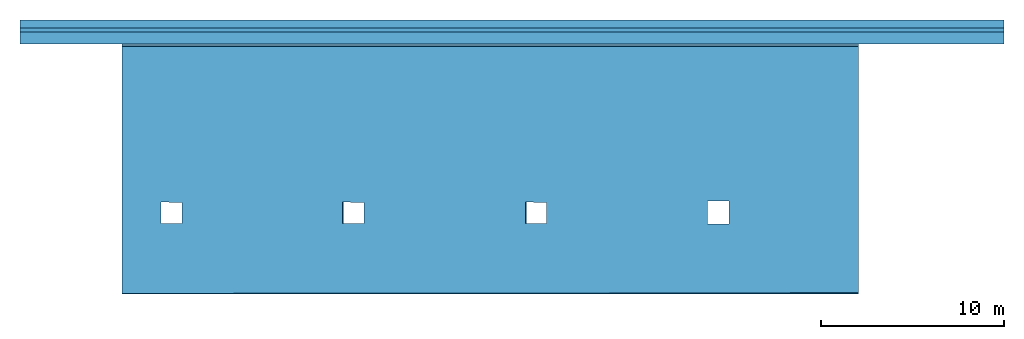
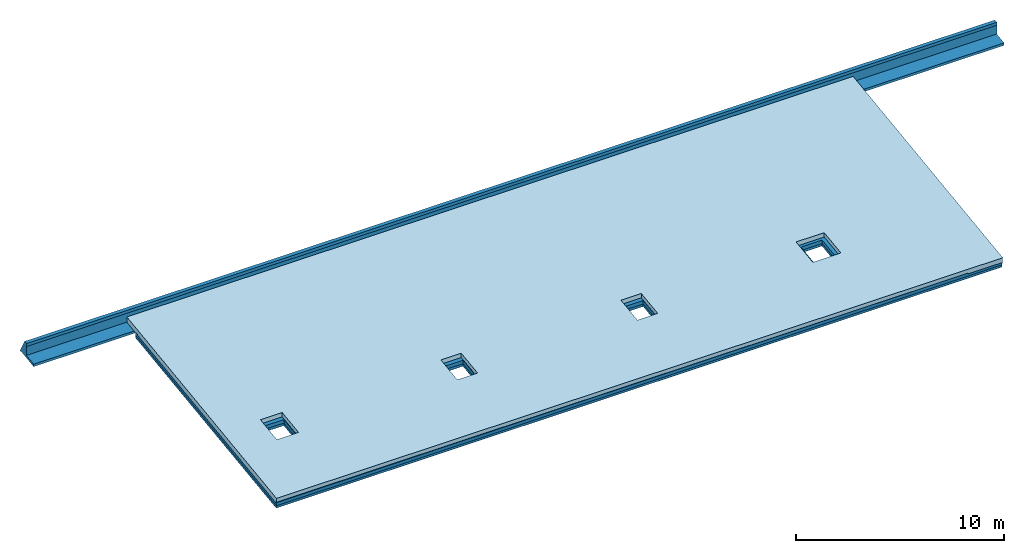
# One storey: 3 building element parts, 1 beam, 1 roof, 9 openings, 1 element without a shape of its own.
"""IFC2X3 building model written with IfcOpenShell, lengths in metres."""

import ifcopenshell
import ifcopenshell.guid

model = None  # the IFC model being written
_history = None  # IfcOwnerHistory: only IFC2X3 demands one
_inside = {}  # id of a spatial element -> (the spatial element, [elements in it])
_under = {}  # id of a project, library or spatial element -> (it, [spatial elements below it])
_declared = {}  # id of a project -> (the project, [libraries it declares])
_typed = {}  # id of a type object -> (the type object, [elements of that type])
_made_of = {}  # id of a material, layer set ... -> (it, [elements and type objects made of it])


def new_model(schema):
    """Start an empty IFC model of exactly this schema.

    Asked for "IFC4X3", IfcOpenShell would pick the latest addendum, in which some entities
    have other attributes; the version numbers below select the first issue.
    IFC2X3 requires an IfcOwnerHistory on every rooted entity: one is made here for all.
    """
    global model, _history
    if schema == "IFC4X3":
        model = ifcopenshell.file(schema_version=(4, 3, 0, 0))
    else:
        model = ifcopenshell.file(schema=schema)
    _inside.clear()
    _under.clear()
    _declared.clear()
    _typed.clear()
    _made_of.clear()
    _history = None
    if model.schema == "IFC2X3":
        org = make("IfcOrganization", Name="unknown")
        user = make(
            "IfcPersonAndOrganization",
            ThePerson=make("IfcPerson", FamilyName="unknown"),
            TheOrganization=org,
        )
        app = make(
            "IfcApplication",
            ApplicationDeveloper=org,
            Version="unknown",
            ApplicationFullName="unknown",
            ApplicationIdentifier="unknown",
        )
        _history = make(
            "IfcOwnerHistory",
            OwningUser=user,
            OwningApplication=app,
            ChangeAction="ADDED",
            CreationDate=0,
        )
    return model


def make(cls, **values):
    """One entity of the class cls with the attributes given. An attribute that is None is left unset."""
    return model.create_entity(
        cls, **{name: value for name, value in values.items() if value is not None}
    )


def entity(cls, *values):
    """Any entity or typed value of the class cls, its attributes in the order of the schema. None: left unset."""
    e = model.create_entity(cls)
    for i, value in enumerate(values):
        if value is not None:
            e[i] = value
    return e


def rooted(cls, **values):
    """An entity with a GlobalId (a new one), such as an element, a storey or a relation."""
    return make(cls, GlobalId=ifcopenshell.guid.new(), OwnerHistory=_history, **values)


def si_unit(unit_type, name, prefix=None):
    """IfcSIUnit, for example si_unit("LENGTHUNIT", "METRE", prefix="MILLI")."""
    return make("IfcSIUnit", UnitType=unit_type, Prefix=prefix, Name=name)


def converted_unit(unit_type, name, factor, base, dimensions=None, offset=None):
    """IfcConversionBasedUnit, such as the inch: factor (a typed value) times the base unit."""
    return make(
        "IfcConversionBasedUnit"
        if offset is None
        else "IfcConversionBasedUnitWithOffset",
        ConversionOffset=offset,
        Dimensions=None
        if dimensions is None
        else entity("IfcDimensionalExponents", *dimensions),
        UnitType=unit_type,
        Name=name,
        ConversionFactor=make(
            "IfcMeasureWithUnit", ValueComponent=factor, UnitComponent=base
        ),
    )


def derived_unit(unit_type, elements):
    """IfcDerivedUnit: a product of units, each with its exponent."""
    return make(
        "IfcDerivedUnit",
        Elements=[
            make("IfcDerivedUnitElement", Unit=unit, Exponent=power)
            for unit, power in elements
        ],
        UnitType=unit_type,
    )


def money_unit(currency):
    """IfcMonetaryUnit."""
    return make("IfcMonetaryUnit", Currency=currency)


def assignment(units):
    """IfcUnitAssignment: the units of a project."""
    return None if units is None else make("IfcUnitAssignment", Units=units)


def point(xyz):
    """IfcCartesianPoint."""
    return None if xyz is None else make("IfcCartesianPoint", Coordinates=xyz)


def direction(xyz):
    """IfcDirection."""
    return None if xyz is None else make("IfcDirection", DirectionRatios=xyz)


def frame(location, z_axis=None, x_axis=None):
    """IfcAxis2Placement3D, a coordinate frame: its origin and axes. An axis left out is left unset."""
    return make(
        "IfcAxis2Placement3D",
        Location=point(location),
        Axis=direction(z_axis),
        RefDirection=direction(x_axis),
    )


def origin_with_axes():
    """The frame at (0, 0, 0) with the z axis (0, 0, 1) and the x axis (1, 0, 0) written out."""
    return frame((0.0, 0.0, 0.0), z_axis=(0.0, 0.0, 1.0), x_axis=(1.0, 0.0, 0.0))


def place(relative_to, where):
    """IfcLocalPlacement: puts the frame where relative to a parent placement (None: the world)."""
    return make(
        "IfcLocalPlacement", PlacementRelTo=relative_to, RelativePlacement=where
    )


def context(
    kind, dimensions, precision=None, world=None, true_north=None, identifier=None
):
    """IfcGeometricRepresentationContext, for example the 3D "Model" context."""
    return make(
        "IfcGeometricRepresentationContext",
        ContextIdentifier=identifier,
        ContextType=kind,
        CoordinateSpaceDimension=dimensions,
        Precision=precision,
        WorldCoordinateSystem=world,
        TrueNorth=true_north,
    )


def subcontext(parent, identifier, kind, view, scale=None):
    """IfcGeometricRepresentationSubContext, for example "Body" below "Model"."""
    return make(
        "IfcGeometricRepresentationSubContext",
        ContextIdentifier=identifier,
        ContextType=kind,
        ParentContext=parent,
        TargetScale=scale,
        TargetView=view,
    )


def project(units=None, contexts=None):
    """IfcProject with its units and contexts."""
    return rooted(
        "IfcProject",
        Name="project",
        RepresentationContexts=contexts,
        UnitsInContext=assignment(units),
    )


def spatial(cls, under=None, at=None, **own):
    """A site, building, storey or space (cls), placed at a placement, below another one or the project."""
    s = rooted(cls, ObjectPlacement=at, **own)
    if under is not None:
        _under.setdefault(under.id(), (under, []))[1].append(s)
    return s


def polyline(points):
    """IfcPolyline through the points."""
    return make("IfcPolyline", Points=[point(p) for p in points])


def outline(outer, holes=None, kind="AREA"):
    """IfcArbitraryClosedProfileDef: a profile drawn as a closed curve; with holes, ...WithVoids."""
    if holes is None:
        return make("IfcArbitraryClosedProfileDef", ProfileType=kind, OuterCurve=outer)
    return make(
        "IfcArbitraryProfileDefWithVoids",
        ProfileType=kind,
        OuterCurve=outer,
        InnerCurves=holes,
    )


def extrude(swept, where, along, depth):
    """IfcExtrudedAreaSolid: the profile swept, set in the frame where, extruded along a direction by depth."""
    return make(
        "IfcExtrudedAreaSolid",
        SweptArea=swept,
        Position=where,
        ExtrudedDirection=direction(along),
        Depth=depth,
    )


def shape(context_of_items, identifier, shape_type, items):
    """IfcShapeRepresentation: the items that make up one representation, for example the "Body"."""
    return make(
        "IfcShapeRepresentation",
        ContextOfItems=context_of_items,
        RepresentationIdentifier=identifier,
        RepresentationType=shape_type,
        Items=items,
    )


def material(Name=None, Category=None):
    """IfcMaterial."""
    return make("IfcMaterial", Name=Name, Category=Category)


def made_of(thing, what):
    """Note that an element or type object is made of a material, layer set ...; save() writes the relation."""
    if what is not None:
        _made_of.setdefault(what.id(), (what, []))[1].append(thing)
    return thing


def type_object(cls, material=None, **own):
    """A type object (cls), such as IfcWallType, which elements share."""
    return made_of(rooted(cls, **own), material)


def element(
    cls,
    number,
    at=None,
    inside=None,
    cuts=None,
    type_object=None,
    material=None,
    context=None,
    identifier="Body",
    shape_type=None,
    held_by="IfcProductDefinitionShape",
    body=None,
    shapes=None,
    **own,
):
    """One element of the class cls, such as IfcWall. Its Tag is "e" and its number.

    at: its placement. inside: the storey or other place that contains it. cuts: it is an
    opening in that element (IfcRelVoidsElement). A single representation is given by context,
    identifier, shape_type and body (its items); several are given by shapes. held_by: the class
    of the entity that holds the representations. save() writes the other relations.
    """
    e = rooted(cls, Tag="e%d" % number, ObjectPlacement=at, **own)
    if body is not None:
        shapes = [shape(context, identifier, shape_type, body)]
    if shapes is not None:
        e.Representation = make(held_by, Representations=shapes)
    if inside is not None:
        _inside.setdefault(inside.id(), (inside, []))[1].append(e)
    if cuts is not None:
        rooted(
            "IfcRelVoidsElement", RelatingBuildingElement=cuts, RelatedOpeningElement=e
        )
    if type_object is not None:
        _typed.setdefault(type_object.id(), (type_object, []))[1].append(e)
    return made_of(e, material)


def aggregate(whole, parts):
    """IfcRelAggregates: a whole, such as a stair, and the parts it consists of."""
    return rooted("IfcRelAggregates", RelatingObject=whole, RelatedObjects=parts)


def save(model, path):
    """Write the relations noted so far, then the file.

    IfcRelAggregates (storeys below a building ...), IfcRelContainedInSpatialStructure (elements
    in a storey), IfcRelDefinesByType, IfcRelAssociatesMaterial and IfcRelDeclares: one each for
    every whole, place, type object, material and project.
    """
    for whole, parts in _under.values():
        aggregate(whole, parts)
    for where, things in _inside.values():
        rooted(
            "IfcRelContainedInSpatialStructure",
            RelatedElements=things,
            RelatingStructure=where,
        )
    for kind, things in _typed.values():
        rooted("IfcRelDefinesByType", RelatedObjects=things, RelatingType=kind)
    for what, things in _made_of.values():
        rooted("IfcRelAssociatesMaterial", RelatedObjects=things, RelatingMaterial=what)
    for by, libraries in _declared.values():
        rooted("IfcRelDeclares", RelatingContext=by, RelatedDefinitions=libraries)
    model.write(path)


model = new_model("IFC2X3")

# Units and contexts
model_context = context("Model", 3, precision=1e-05, world=origin_with_axes(), true_north=direction((0.0, 1.0)))
body_context = subcontext(model_context, "Body", "Model", "MODEL_VIEW")
ifc_project = project(units=[si_unit("LENGTHUNIT", "METRE"), si_unit("AREAUNIT", "SQUARE_METRE"), si_unit("VOLUMEUNIT", "CUBIC_METRE"), converted_unit("PLANEANGLEUNIT", "DEGREE", entity("IfcPlaneAngleMeasure", 0.0174532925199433), si_unit("PLANEANGLEUNIT", "RADIAN"), dimensions=[0, 0, 0, 0, 0, 0, 0]), money_unit("CHF"), converted_unit("TIMEUNIT", "Year", entity("IfcTimeMeasure", 31557600.0), si_unit("TIMEUNIT", "SECOND"), dimensions=[0, 0, 1, 0, 0, 0, 0]), si_unit("MASSUNIT", "GRAM", prefix="KILO"), si_unit("THERMODYNAMICTEMPERATUREUNIT", "DEGREE_CELSIUS"), si_unit("LUMINOUSINTENSITYUNIT", "LUMEN"), si_unit("ENERGYUNIT", "JOULE", prefix="MEGA"), derived_unit("THERMALCONDUCTANCEUNIT", [(si_unit("POWERUNIT", "WATT"), 1), (si_unit("LENGTHUNIT", "METRE"), -1), (si_unit("THERMODYNAMICTEMPERATUREUNIT", "KELVIN"), -1)]), derived_unit("SPECIFICHEATCAPACITYUNIT", [(si_unit("ENERGYUNIT", "JOULE"), 1), (si_unit("MASSUNIT", "GRAM", prefix="KILO"), -1), (si_unit("THERMODYNAMICTEMPERATUREUNIT", "KELVIN"), -1)]), derived_unit("MASSDENSITYUNIT", [(si_unit("MASSUNIT", "GRAM", prefix="KILO"), 1), (si_unit("VOLUMEUNIT", "CUBIC_METRE"), -1)])], contexts=[model_context])

# Site, building, storey
site_placement = place(None, origin_with_axes())
site = spatial("IfcSite", under=ifc_project, at=site_placement, Name="Site", CompositionType="ELEMENT")
building_placement = place(site_placement, origin_with_axes())
building = spatial("IfcBuilding", under=site, at=building_placement, Name="Bâtiment", CompositionType="ELEMENT")
storey_placement = place(building_placement, frame((0.0, 0.0, 5.399999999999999), z_axis=(0.0, 0.0, 1.0), x_axis=(1.0, 0.0, 0.0)))
storey = spatial("IfcBuildingStorey", under=building, at=storey_placement, Name="Toiture", CompositionType="ELEMENT", Elevation=5.4)

# Beam
ifc_material_1 = material(Name="Finition ext - Revêtement général")
beam_type = type_object("IfcBeamType", Name="Acrotère HETZEL 1311 x 956", PredefinedType="BEAM")
beam_placement = place(storey_placement, frame((1.515724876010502, 24.38972373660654, -0.4903442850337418), z_axis=(0.0, 0.0, 1.0), x_axis=(0.0, -1.0, 0.0)))
element("IfcBeam", 1, at=beam_placement, inside=storey, type_object=beam_type, material=ifc_material_1, Name="POUTRE-003", ObjectType="BEAM", context=body_context, shape_type="SweptSolid", body=[
    extrude(outline(polyline([(-1.3111863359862, 0.005840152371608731), (-1.207309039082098, 0.005840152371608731), (-1.195197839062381, 0.02857029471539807), (-1.807727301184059e-10, -0.1456928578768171), (0.0, 0.0), (-0.6955157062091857, 0.09711450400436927), (-0.6955157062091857, 0.6369586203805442), (-0.6669150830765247, 0.6369586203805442), (-0.6669150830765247, 0.8102091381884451), (-0.8825980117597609, 0.8102091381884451), (-1.3111863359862, 0.005840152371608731)])), frame((0.0, 53.90036493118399, 0.0), z_axis=(0.0, -1.0, 0.0), x_axis=(1.0, 0.0, 0.0)), (0.0, 0.0, 1.0), 53.90036493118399),
])

# Roof, openings
ifc_material_2 = material(Name="Herbe")
roof_1_placement = place(storey_placement, frame((7.097620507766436, 11.23554857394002, -2.246196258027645), z_axis=(0.0, 0.0, 1.0), x_axis=(0.9999994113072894, -0.001085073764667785, 0.0)))
roof_1 = element("IfcRoof", 2, at=roof_1_placement, inside=storey, material=ifc_material_2, Name="TOIT-004", ObjectType="FLAT_ROOF", ShapeType="NOTDEFINED", context=body_context, shape_type="SweptSolid", body=[
    extrude(outline(polyline([(-0.01900821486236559, 14.01304561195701), (-0.003381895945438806, -0.5155484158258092), (40.33873985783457, -0.4713868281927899), (40.32311353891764, 14.05720719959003), (-0.01900821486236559, 14.01304561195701)])), frame((0.0, 0.0, 0.0), z_axis=(0.0, -0.1321627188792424, 0.9912280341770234), x_axis=(1.0, 0.0, 0.0)), (0.0, 0.0, 1.0), 0.3080000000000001),
])
opening_1_placement = place(roof_1_placement, frame((-7.085424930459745, -11.24324340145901, -3.153803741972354), z_axis=(0.0, 0.0, 1.0), x_axis=(0.9999994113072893, 0.001085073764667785, 0.0)))
element("IfcOpeningElement", 3, at=opening_1_placement, cuts=roof_1, Name="PERCEMENT-002", ObjectType="EMPTY_OPENING", context=body_context, shape_type="SweptSolid", body=[
    extrude(outline(polyline([(-0.5647526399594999, 0.7877344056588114), (-0.563041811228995, -0.7889581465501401), (0.5647526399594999, -0.7877344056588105), (0.5630418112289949, 0.7889581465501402), (-0.5647526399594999, 0.7877344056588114)])), frame((19.81212399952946, 15.1316884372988, 7.548214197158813), z_axis=(0.0, 7.833802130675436e-07, 0.9999999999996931), x_axis=(0.9999994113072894, -0.001085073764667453, 8.500253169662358e-10)), (0.0, 0.0, -1.0), 6.693820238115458),
])
opening_2_placement = place(roof_1_placement, frame((-7.085424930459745, -11.24324340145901, -3.153803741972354), z_axis=(0.0, 0.0, 1.0), x_axis=(0.9999994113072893, 0.001085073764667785, 0.0)))
element("IfcOpeningElement", 4, at=opening_2_placement, cuts=roof_1, Name="PERCEMENT-002", ObjectType="EMPTY_OPENING", context=body_context, shape_type="SweptSolid", body=[
    extrude(outline(polyline([(-0.5647526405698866, 0.7877350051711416), (-0.5630418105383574, -0.7889587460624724), (0.5647526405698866, -0.7877349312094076), (0.5630418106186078, 0.7889587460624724), (-0.5647526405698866, 0.7877350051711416)])), frame((19.81212399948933, 15.1316861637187, 3.435101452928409), z_axis=(0.0, 0.0, 1.0), x_axis=(0.9999994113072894, -0.001085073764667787, 0.0)), (0.0, 0.0, 1.0), 4.113112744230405),
])
opening_3_placement = place(roof_1_placement, frame((-7.085424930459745, -11.24324340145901, -3.153803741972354), z_axis=(0.0, 0.0, 1.0), x_axis=(0.9999994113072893, 0.001085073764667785, 0.0)))
element("IfcOpeningElement", 5, at=opening_3_placement, cuts=roof_1, Name="PERCEMENT-002", ObjectType="EMPTY_OPENING", context=body_context, shape_type="SweptSolid", body=[
    extrude(outline(polyline([(-0.7805060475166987, 0.8071852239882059), (-0.7787524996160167, -0.8088771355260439), (0.7805060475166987, -0.8071852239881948), (0.7787524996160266, 0.8088771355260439), (-0.7805060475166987, 0.8071852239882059)])), frame((39.76852441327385, 15.13163116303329, 7.548214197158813), z_axis=(0.0, 7.833802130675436e-07, 0.9999999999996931), x_axis=(0.9999994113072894, -0.001085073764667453, 8.500253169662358e-10)), (0.0, 0.0, -1.0), 6.693820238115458),
])
opening_4_placement = place(roof_1_placement, frame((-7.085424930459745, -11.24324340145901, -3.153803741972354), z_axis=(0.0, 0.0, 1.0), x_axis=(0.9999994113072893, 0.001085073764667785, 0.0)))
element("IfcOpeningElement", 6, at=opening_4_placement, cuts=roof_1, Name="PERCEMENT-002", ObjectType="EMPTY_OPENING", context=body_context, shape_type="SweptSolid", body=[
    extrude(outline(polyline([(-0.6050110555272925, 0.7876907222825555), (-0.6033002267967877, -0.7890018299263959), (0.6050110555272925, -0.7876907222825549), (0.6033002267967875, 0.7890018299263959), (-0.6050110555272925, 0.7876907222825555)])), frame((9.826976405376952, 15.1316884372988, 7.548214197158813), z_axis=(0.0, 7.833802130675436e-07, 0.9999999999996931), x_axis=(0.9999994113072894, -0.001085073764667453, 8.500253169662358e-10)), (0.0, 0.0, -1.0), 6.693820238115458),
])
opening_5_placement = place(roof_1_placement, frame((-7.085424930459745, -11.24324340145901, -3.153803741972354), z_axis=(0.0, 0.0, 1.0), x_axis=(0.9999994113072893, 0.001085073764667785, 0.0)))
element("IfcOpeningElement", 7, at=opening_5_placement, cuts=roof_1, Name="PERCEMENT-002", ObjectType="EMPTY_OPENING", context=body_context, shape_type="SweptSolid", body=[
    extrude(outline(polyline([(-0.5647526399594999, 0.7877344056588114), (-0.563041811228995, -0.7889581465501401), (0.5647526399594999, -0.7877344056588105), (0.5630418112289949, 0.7889581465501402), (-0.5647526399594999, 0.7877344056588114)])), frame((29.81671088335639, 15.1316884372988, 7.548214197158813), z_axis=(0.0, 7.833802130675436e-07, 0.9999999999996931), x_axis=(0.9999994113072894, -0.001085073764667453, 8.500253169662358e-10)), (0.0, 0.0, -1.0), 6.693820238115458),
])

# Roof, openings, building element parts
roof_2_placement = place(storey_placement, frame((7.097618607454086, 11.23554857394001, -2.543827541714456), z_axis=(0.0, 0.0, 1.0), x_axis=(0.9999994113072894, -0.001085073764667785, 0.0)))
roof_2 = element("IfcRoof", 8, at=roof_2_placement, inside=storey, Name="TOIT-004", ObjectType="FLAT_ROOF", ShapeType="NOTDEFINED")
opening_6_placement = place(roof_2_placement, frame((-7.085423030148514, -11.24324339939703, -2.856172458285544), z_axis=(0.0, 0.0, 1.0), x_axis=(0.9999994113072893, 0.001085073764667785, 0.0)))
element("IfcOpeningElement", 9, at=opening_6_placement, cuts=roof_2, Name="PERCEMENT-010", ObjectType="EMPTY_OPENING", context=body_context, shape_type="SweptSolid", body=[
    extrude(outline(polyline([(-0.5789909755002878, -0.5850175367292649), (0.5802605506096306, -0.5770725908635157), (0.5790075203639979, 0.5777148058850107), (-0.5802605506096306, 0.585017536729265), (-0.5789909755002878, -0.5850175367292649)])), frame((19.77294745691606, 15.13530386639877, 7.103484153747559), z_axis=(0.0, 0.0, 1.0), x_axis=(0.9999994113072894, -0.001085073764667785, 0.0)), (0.0, 0.0, -1.0), 6.472279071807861),
])
opening_7_placement = place(roof_2_placement, frame((-7.085423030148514, -11.24324339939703, -2.856172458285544), z_axis=(0.0, 0.0, 1.0), x_axis=(0.9999994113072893, 0.001085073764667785, 0.0)))
element("IfcOpeningElement", 10, at=opening_7_placement, cuts=roof_2, Name="PERCEMENT-010", ObjectType="EMPTY_OPENING", context=body_context, shape_type="SweptSolid", body=[
    extrude(outline(polyline([(-0.5789909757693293, -0.5850175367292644), (0.5802605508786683, -0.5770725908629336), (0.5790075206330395, 0.5777148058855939), (-0.5802605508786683, 0.5850175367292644), (-0.5789909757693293, -0.5850175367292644)])), frame((29.78827510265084, 15.13530386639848, 7.103484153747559), z_axis=(0.0, 0.0, 1.0), x_axis=(0.9999994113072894, -0.001085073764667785, 0.0)), (0.0, 0.0, -1.0), 6.472279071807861),
])
opening_8_placement = place(roof_2_placement, frame((-7.085423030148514, -11.24324339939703, -2.856172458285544), z_axis=(0.0, 0.0, 1.0), x_axis=(0.9999994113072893, 0.001085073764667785, 0.0)))
element("IfcOpeningElement", 11, at=opening_8_placement, cuts=roof_2, Name="PERCEMENT-010", ObjectType="EMPTY_OPENING", context=body_context, shape_type="SweptSolid", body=[
    extrude(outline(polyline([(-0.5789909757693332, -0.5850175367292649), (0.5802605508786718, -0.5770725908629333), (0.5790075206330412, 0.5777148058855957), (-0.5802605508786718, 0.5850175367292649), (-0.5789909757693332, -0.5850175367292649)])), frame((9.823096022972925, 15.13530386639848, 7.103484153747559), z_axis=(0.0, 0.0, 1.0), x_axis=(0.9999994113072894, -0.001085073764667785, 0.0)), (0.0, 0.0, -1.0), 6.472279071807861),
])
opening_9_placement = place(roof_2_placement, frame((-7.085423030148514, -11.24324339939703, -2.856172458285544), z_axis=(0.0, 0.0, 1.0), x_axis=(0.9999994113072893, 0.001085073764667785, 0.0)))
element("IfcOpeningElement", 12, at=opening_9_placement, cuts=roof_2, Name="PERCEMENT-010", ObjectType="EMPTY_OPENING", context=body_context, shape_type="SweptSolid", body=[
    extrude(outline(polyline([(-0.5812609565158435, -0.6345544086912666), (0.582636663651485, -0.6332914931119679), (0.5812609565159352, 0.6345544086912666), (-0.582636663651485, 0.633291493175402), (-0.5812609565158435, -0.6345544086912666)])), frame((39.7635781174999, 15.15673782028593, 7.103484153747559), z_axis=(0.0, 0.0, 1.0), x_axis=(0.9999994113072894, -0.001085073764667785, 0.0)), (0.0, 0.0, -1.0), 6.472279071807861),
])
ifc_material_3 = material(Name="Finition int - Plaque de plâtre")
building_element_part_1_placement = place(roof_2_placement, origin_with_axes())
building_element_part_1 = element("IfcBuildingElementPart", 13, at=building_element_part_1_placement, material=ifc_material_3, Name="Finition int - Plaque de plâtre", context=body_context, shape_type="SweptSolid", body=[
    extrude(outline(polyline([(-0.01807327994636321, 13.14378843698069), (0.0007615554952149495, -0.5110442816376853), (40.33873985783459, -0.4303204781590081), (40.32404847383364, 13.18795002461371), (-0.01807327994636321, 13.14378843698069)])), frame((0.0, 0.0, 0.0), z_axis=(0.0, -0.1321627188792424, 0.9912280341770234), x_axis=(1.0, 0.0, 0.0)), (0.0, 0.0, 1.0), 0.01),
])
ifc_material_4 = material(Name="Isolation - Fibres de bois")
building_element_part_2_placement = place(roof_2_placement, origin_with_axes())
building_element_part_2 = element("IfcBuildingElementPart", 14, at=building_element_part_2_placement, material=ifc_material_4, Name="Isolation - Fibres de bois", context=body_context, shape_type="SweptSolid", body=[
    extrude(outline(polyline([(-0.01807327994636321, 13.14378843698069), (0.0007615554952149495, -0.5110442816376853), (40.33873985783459, -0.4303204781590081), (40.32404847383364, 13.18795002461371), (-0.01807327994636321, 13.14378843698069)])), frame((0.0, -0.001321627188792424, 0.009912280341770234), z_axis=(0.0, -0.1321627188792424, 0.9912280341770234), x_axis=(1.0, 0.0, 0.0)), (0.0, 0.0, 1.0), 0.14),
])
ifc_material_5 = material(Name="Béton armé (Coulé)")
building_element_part_3_placement = place(roof_2_placement, origin_with_axes())
building_element_part_3 = element("IfcBuildingElementPart", 15, at=building_element_part_3_placement, material=ifc_material_5, Name="Béton armé (Coulé)", context=body_context, shape_type="SweptSolid", body=[
    extrude(outline(polyline([(-0.01807327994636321, 13.14378843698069), (0.0007615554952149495, -0.5110442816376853), (40.33873985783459, -0.4303204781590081), (40.32404847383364, 13.18795002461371), (-0.01807327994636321, 13.14378843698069)])), frame((0.0, -0.01982440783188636, 0.1486842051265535), z_axis=(0.0, -0.1321627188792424, 0.9912280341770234), x_axis=(1.0, 0.0, 0.0)), (0.0, 0.0, 1.0), 0.2),
])
aggregate(roof_2, [building_element_part_1, building_element_part_2, building_element_part_3])

save(model, "model.ifc")
